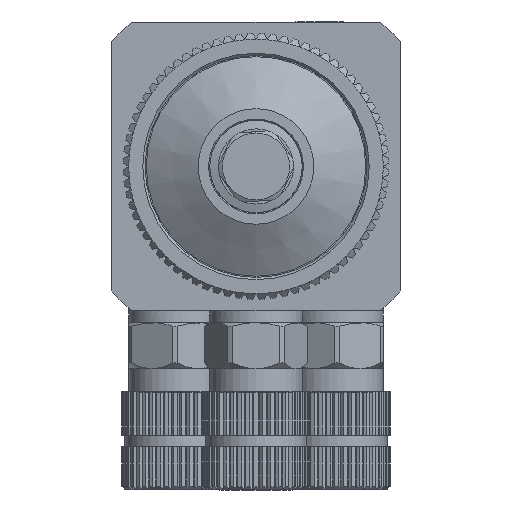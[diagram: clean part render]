
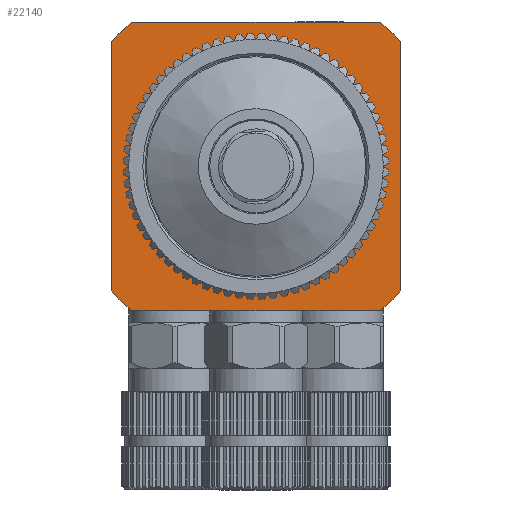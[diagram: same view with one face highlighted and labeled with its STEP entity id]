
A CAD part, front view. The second image highlights one B-rep face of the part: STEP entity #22140.
In plain terms, the highlighted planar face has unit normal (0, -1, 0).
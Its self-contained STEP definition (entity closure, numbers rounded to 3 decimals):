
#756 = EDGE_CURVE ( 'NONE', #36704, #14879, #44945, .T. ) ;
#2207 = EDGE_CURVE ( 'NONE', #56203, #56203, #18598, .T. ) ;
#2305 = DIRECTION ( 'NONE',  ( 0., -1., 0. ) ) ;
#2872 = PLANE ( 'NONE',  #6816 ) ;
#3075 = VECTOR ( 'NONE', #3468, 1000. ) ;
#3468 = DIRECTION ( 'NONE',  ( 0., 0., 1. ) ) ;
#4216 = VERTEX_POINT ( 'NONE', #5157 ) ;
#5093 = EDGE_CURVE ( 'NONE', #50740, #30274, #23063, .T. ) ;
#5157 = CARTESIAN_POINT ( 'NONE',  ( 10.77, -12.5, -12.5 ) ) ;
#5769 = CARTESIAN_POINT ( 'NONE',  ( -10.77, -12.5, 12.5 ) ) ;
#6135 = CARTESIAN_POINT ( 'NONE',  ( 10.77, -12.5, 12.5 ) ) ;
#6778 = CIRCLE ( 'NONE', #14287, 16.5 ) ;
#6816 = AXIS2_PLACEMENT_3D ( 'NONE', #53275, #48839, #26457 ) ;
#7760 = EDGE_CURVE ( 'NONE', #36431, #30274, #41285, .T. ) ;
#9042 = DIRECTION ( 'NONE',  ( 0., -1., 0. ) ) ;
#9463 = VERTEX_POINT ( 'NONE', #6135 ) ;
#9558 = ORIENTED_EDGE ( 'NONE', *, *, #756, .F. ) ;
#10250 = CARTESIAN_POINT ( 'NONE',  ( -12.5, -12.5, 10.77 ) ) ;
#10809 = AXIS2_PLACEMENT_3D ( 'NONE', #18518, #9042, #18222 ) ;
#11061 = DIRECTION ( 'NONE',  ( -1., 0., 0. ) ) ;
#11323 = EDGE_CURVE ( 'NONE', #54593, #12862, #6778, .T. ) ;
#12862 = VERTEX_POINT ( 'NONE', #5769 ) ;
#12912 = AXIS2_PLACEMENT_3D ( 'NONE', #52479, #43039, #15639 ) ;
#14013 = CARTESIAN_POINT ( 'NONE',  ( 12.5, -12.5, 12.5 ) ) ;
#14287 = AXIS2_PLACEMENT_3D ( 'NONE', #41282, #53651, #18300 ) ;
#14368 = CARTESIAN_POINT ( 'NONE',  ( 12.5, -12.5, -12.5 ) ) ;
#14879 = VERTEX_POINT ( 'NONE', #21647 ) ;
#15639 = DIRECTION ( 'NONE',  ( -1., 0., 0. ) ) ;
#15689 = EDGE_LOOP ( 'NONE', ( #22105, #9558, #52403, #56581, #56924, #44660, #38060, #16371, #36304 ) ) ;
#16371 = ORIENTED_EDGE ( 'NONE', *, *, #7760, .F. ) ;
#16726 = CARTESIAN_POINT ( 'NONE',  ( 12.5, -12.5, 10.77 ) ) ;
#18222 = DIRECTION ( 'NONE',  ( -1., 0., 0. ) ) ;
#18300 = DIRECTION ( 'NONE',  ( -1., 0., 0. ) ) ;
#18518 = CARTESIAN_POINT ( 'NONE',  ( 0., -12.5, 0. ) ) ;
#18598 = CIRCLE ( 'NONE', #12912, 10.5 ) ;
#20170 = DIRECTION ( 'NONE',  ( 1., 0., 0. ) ) ;
#21647 = CARTESIAN_POINT ( 'NONE',  ( 12.5, -12.5, -10.77 ) ) ;
#22105 = ORIENTED_EDGE ( 'NONE', *, *, #36720, .T. ) ;
#22140 = ADVANCED_FACE ( 'NONE', ( #30305, #48267 ), #2872, .T. ) ;
#22426 = DIRECTION ( 'NONE',  ( 0., -1., 0. ) ) ;
#23063 = CIRCLE ( 'NONE', #30617, 16.5 ) ;
#23444 = DIRECTION ( 'NONE',  ( 0., 0., -1. ) ) ;
#26457 = DIRECTION ( 'NONE',  ( 0., 0., -1. ) ) ;
#27559 = CARTESIAN_POINT ( 'NONE',  ( -10.77, -12.5, -12.5 ) ) ;
#28525 = CARTESIAN_POINT ( 'NONE',  ( -10.5, -12.5, 0. ) ) ;
#30274 = VERTEX_POINT ( 'NONE', #27559 ) ;
#30305 = FACE_BOUND ( 'NONE', #37209, .T. ) ;
#30617 = AXIS2_PLACEMENT_3D ( 'NONE', #44522, #22426, #45087 ) ;
#30677 = EDGE_CURVE ( 'NONE', #50740, #54593, #37780, .T. ) ;
#32466 = EDGE_CURVE ( 'NONE', #12862, #9463, #42842, .T. ) ;
#33529 = LINE ( 'NONE', #14368, #42849 ) ;
#34597 = EDGE_CURVE ( 'NONE', #36704, #9463, #43787, .T. ) ;
#35426 = EDGE_CURVE ( 'NONE', #4216, #36431, #33529, .T. ) ;
#36304 = ORIENTED_EDGE ( 'NONE', *, *, #35426, .F. ) ;
#36431 = VERTEX_POINT ( 'NONE', #43063 ) ;
#36704 = VERTEX_POINT ( 'NONE', #16726 ) ;
#36720 = EDGE_CURVE ( 'NONE', #4216, #14879, #37377, .T. ) ;
#37209 = EDGE_LOOP ( 'NONE', ( #47844 ) ) ;
#37377 = CIRCLE ( 'NONE', #51479, 16.5 ) ;
#37739 = DIRECTION ( 'NONE',  ( -1., 0., 0. ) ) ;
#37780 = LINE ( 'NONE', #48276, #3075 ) ;
#38060 = ORIENTED_EDGE ( 'NONE', *, *, #5093, .T. ) ;
#41282 = CARTESIAN_POINT ( 'NONE',  ( 0., -12.5, 0. ) ) ;
#41285 = LINE ( 'NONE', #55699, #48444 ) ;
#42842 = LINE ( 'NONE', #46416, #49381 ) ;
#42849 = VECTOR ( 'NONE', #11061, 1000. ) ;
#43039 = DIRECTION ( 'NONE',  ( 0., 1., 0. ) ) ;
#43063 = CARTESIAN_POINT ( 'NONE',  ( 0.001, -12.5, -12.5 ) ) ;
#43787 = CIRCLE ( 'NONE', #10809, 16.5 ) ;
#43839 = CARTESIAN_POINT ( 'NONE',  ( 0., -12.5, 0. ) ) ;
#43968 = CARTESIAN_POINT ( 'NONE',  ( -12.5, -12.5, -10.77 ) ) ;
#44522 = CARTESIAN_POINT ( 'NONE',  ( 0., -12.5, 0. ) ) ;
#44660 = ORIENTED_EDGE ( 'NONE', *, *, #30677, .F. ) ;
#44945 = LINE ( 'NONE', #14013, #49629 ) ;
#45087 = DIRECTION ( 'NONE',  ( -1., 0., 0. ) ) ;
#46416 = CARTESIAN_POINT ( 'NONE',  ( -12.5, -12.5, 12.5 ) ) ;
#47844 = ORIENTED_EDGE ( 'NONE', *, *, #2207, .T. ) ;
#48267 = FACE_OUTER_BOUND ( 'NONE', #15689, .T. ) ;
#48276 = CARTESIAN_POINT ( 'NONE',  ( -12.5, -12.5, -12.5 ) ) ;
#48444 = VECTOR ( 'NONE', #37739, 1000. ) ;
#48839 = DIRECTION ( 'NONE',  ( 0., -1., 0. ) ) ;
#49381 = VECTOR ( 'NONE', #20170, 1000. ) ;
#49629 = VECTOR ( 'NONE', #23444, 1000. ) ;
#50740 = VERTEX_POINT ( 'NONE', #43968 ) ;
#51479 = AXIS2_PLACEMENT_3D ( 'NONE', #43839, #2305, #56224 ) ;
#52403 = ORIENTED_EDGE ( 'NONE', *, *, #34597, .T. ) ;
#52479 = CARTESIAN_POINT ( 'NONE',  ( 0., -12.5, 0. ) ) ;
#53275 = CARTESIAN_POINT ( 'NONE',  ( 12.5, -12.5, 12.5 ) ) ;
#53651 = DIRECTION ( 'NONE',  ( 0., 1., 0. ) ) ;
#54593 = VERTEX_POINT ( 'NONE', #10250 ) ;
#55699 = CARTESIAN_POINT ( 'NONE',  ( 12.5, -12.5, -12.5 ) ) ;
#56203 = VERTEX_POINT ( 'NONE', #28525 ) ;
#56224 = DIRECTION ( 'NONE',  ( -1., 0., 0. ) ) ;
#56581 = ORIENTED_EDGE ( 'NONE', *, *, #32466, .F. ) ;
#56924 = ORIENTED_EDGE ( 'NONE', *, *, #11323, .F. ) ;
